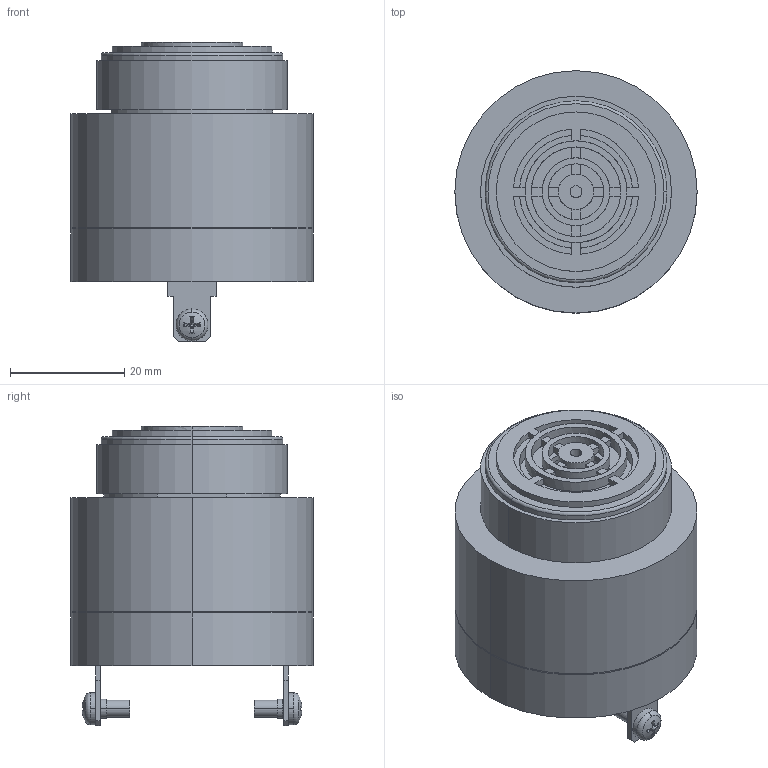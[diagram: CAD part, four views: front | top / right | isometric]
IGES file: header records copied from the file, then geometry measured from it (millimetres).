
Global section: file name: No Iges File Name specified; native system: AutoDesk Inventor R12.0; preprocessor: AutoDesk Inventor Iges Exporter R12.0; date: 20090220.094410; units: millimetre
Bounding box: 42.5 x 42.5 x 52.5 mm (x, y, z)
Volume: 13784 mm3; surface area: 21367.2 mm2
Topology: 6 solids, 6 shells, 221 faces, 637 edges, 429 vertices
Faces by surface type: plane 105, cylinder 36, revolution 34, bspline 22, torus 14, cone 8, sphere 2
